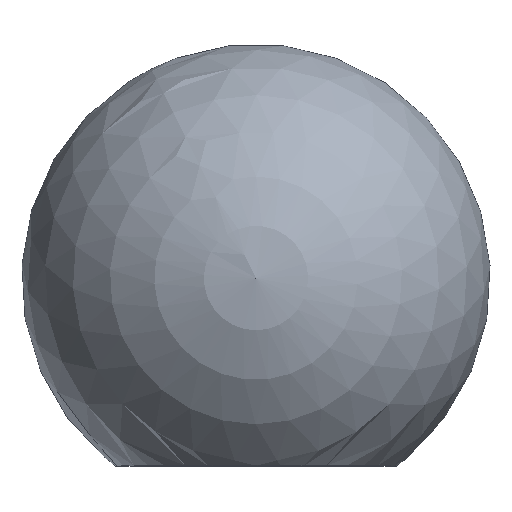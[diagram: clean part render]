
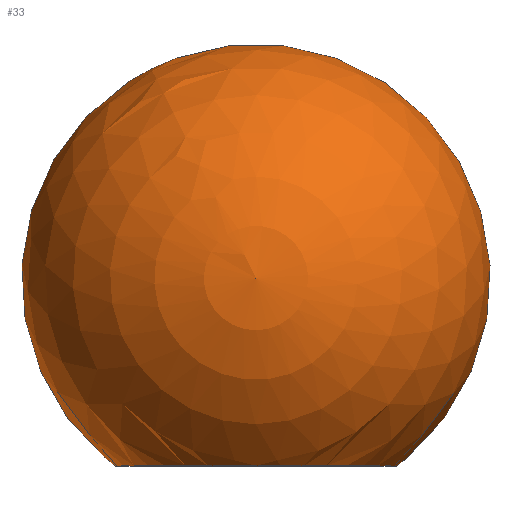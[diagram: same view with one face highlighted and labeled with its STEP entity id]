
A CAD part, top view. The second image highlights one B-rep face of the part: STEP entity #33.
In plain terms, the highlighted spherical face has radius 12.5 mm.
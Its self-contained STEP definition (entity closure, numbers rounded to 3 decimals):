
#13 = AXIS2_PLACEMENT_3D ( 'NONE', #62, #165, #115 ) ;
#18 = DIRECTION ( 'NONE',  ( 0., -1., 0. ) ) ;
#20 = DIRECTION ( 'NONE',  ( 0., 0., -1. ) ) ;
#33 = ADVANCED_FACE ( 'NONE', ( #96 ), #109, .T. ) ;
#62 = CARTESIAN_POINT ( 'NONE',  ( 0., 10., 0. ) ) ;
#67 = VERTEX_POINT ( 'NONE', #89 ) ;
#68 = CARTESIAN_POINT ( 'NONE',  ( 0., 0., 0. ) ) ;
#88 = AXIS2_PLACEMENT_3D ( 'NONE', #68, #18, #20 ) ;
#89 = CARTESIAN_POINT ( 'NONE',  ( 0., 0., -7.5 ) ) ;
#96 = FACE_OUTER_BOUND ( 'NONE', #137, .T. ) ;
#109 = SPHERICAL_SURFACE ( 'NONE', #13, 12.5 ) ;
#111 = ORIENTED_EDGE ( 'NONE', *, *, #147, .F. ) ;
#115 = DIRECTION ( 'NONE',  ( 1., 0., 0. ) ) ;
#137 = EDGE_LOOP ( 'NONE', ( #111 ) ) ;
#147 = EDGE_CURVE ( 'NONE', #67, #67, #152, .T. ) ;
#152 = CIRCLE ( 'NONE', #88, 7.5 ) ;
#165 = DIRECTION ( 'NONE',  ( 0., 0., 1. ) ) ;
